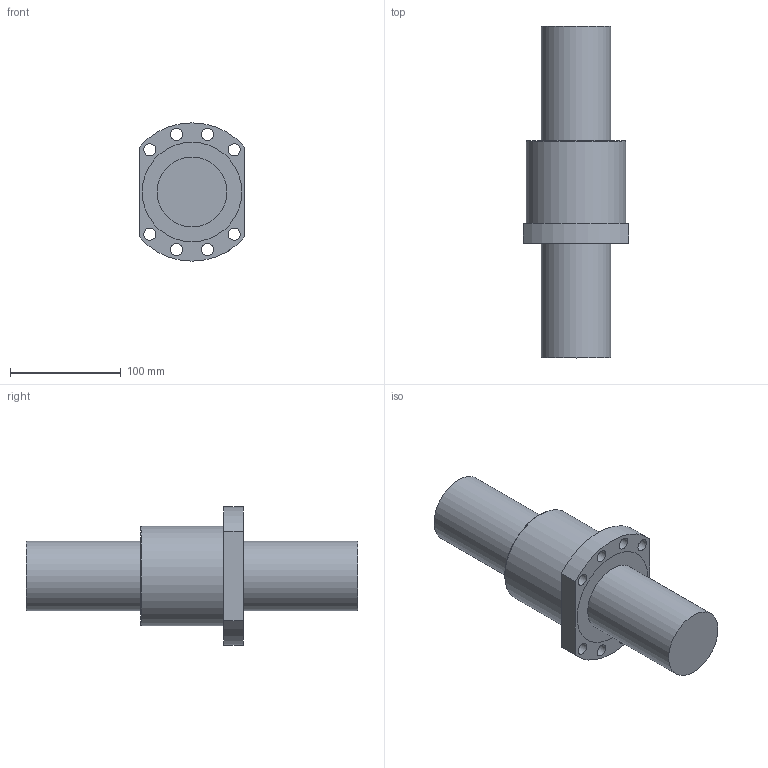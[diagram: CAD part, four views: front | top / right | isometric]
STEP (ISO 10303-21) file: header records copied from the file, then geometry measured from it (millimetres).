
FILE_DESCRIPTION(/* description */ (''),/* implementation_level */ '2;1');
FILE_NAME(/* name */ '6310.stp',/* time_stamp */ '2014-07-11T13:24:36+08:00',/* author */ (''),/* organization */ (''),/* preprocessor_version */ 'ST-DEVELOPER v11',/* originating_system */ 'SIEMENS UGS NX 6.0',/* authorisation */ '');
FILE_SCHEMA (('CONFIG_CONTROL_DESIGN'));
Length unit declared in the file: millimetre
Products named in the file (1): kcc5E5Cj7uq
Bounding box: 95 x 300 x 125 mm (x, y, z)
Volume: 1298533 mm3; surface area: 146306.4 mm2
Topology: 4 solids, 4 shells, 34 faces, 77 edges, 54 vertices
Faces by surface type: cylinder 20, plane 13, torus 1
Full cylindrical faces by diameter (mm): 6.5 x1, 11 x8, 63 x4, 77 x2, 90 x3
Entity records: 1046 total; most frequent: CARTESIAN_POINT 243, DIRECTION 156, ORIENTED_EDGE 98, EDGE_LOOP 80, FACE_BOUND 75, AXIS2_PLACEMENT_3D 74, EDGE_CURVE 49, VERTEX_POINT 45
